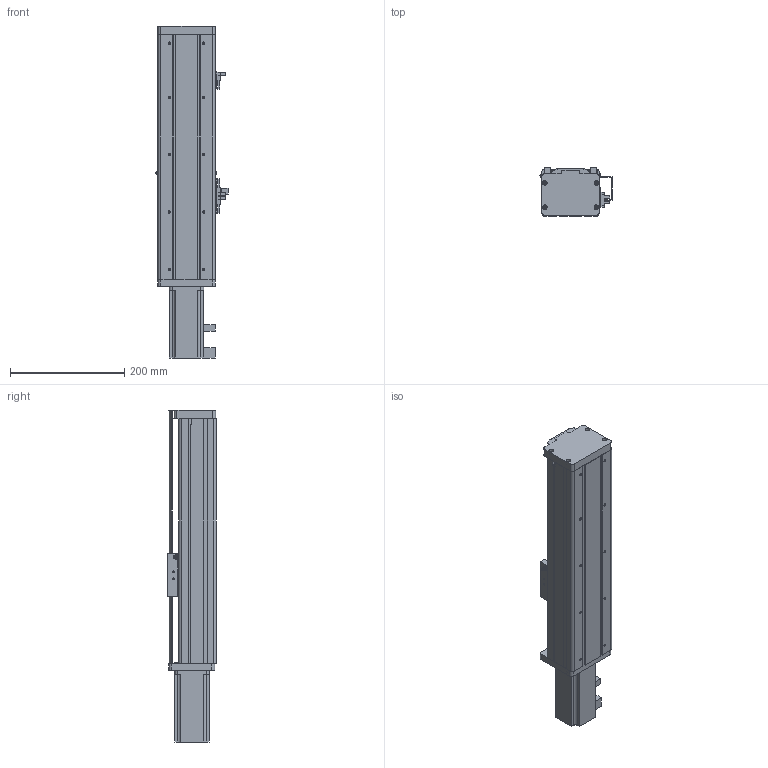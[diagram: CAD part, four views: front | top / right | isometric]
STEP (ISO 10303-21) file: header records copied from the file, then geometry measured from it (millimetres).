
FILE_DESCRIPTION (( 'STEP AP214' ), '1' );
FILE_NAME ('JDBN-100-P10-S200-1.STEP', '2012-06-13T01:07:04', ( 'TIGER-XP' ), ( '888TIGER' ), 'SwSTEP 2.0', 'SolidWorks 2007', '' );
FILE_SCHEMA (( 'AUTOMOTIVE_DESIGN' ));
Length unit declared in the file: millimetre
Products named in the file (1): JDBN-100-P10-S200-1
Bounding box: 125.94 x 84.5 x 580 mm (x, y, z)
Surface area: 307285.5 mm2 (no closed solid volume)
Topology: 0 solids, 29 shells, 484 faces, 1769 edges, 1294 vertices
Faces by surface type: plane 258, cylinder 200, torus 12, cone 12, sphere 2
Entity records: 24783 total; most frequent: CARTESIAN_POINT 3870, DIRECTION 3419, ORIENTED_EDGE 2802, EDGE_CURVE 1769, VERTEX_POINT 1294, AXIS2_PLACEMENT_3D 1197, VECTOR 1025, LINE 1025
